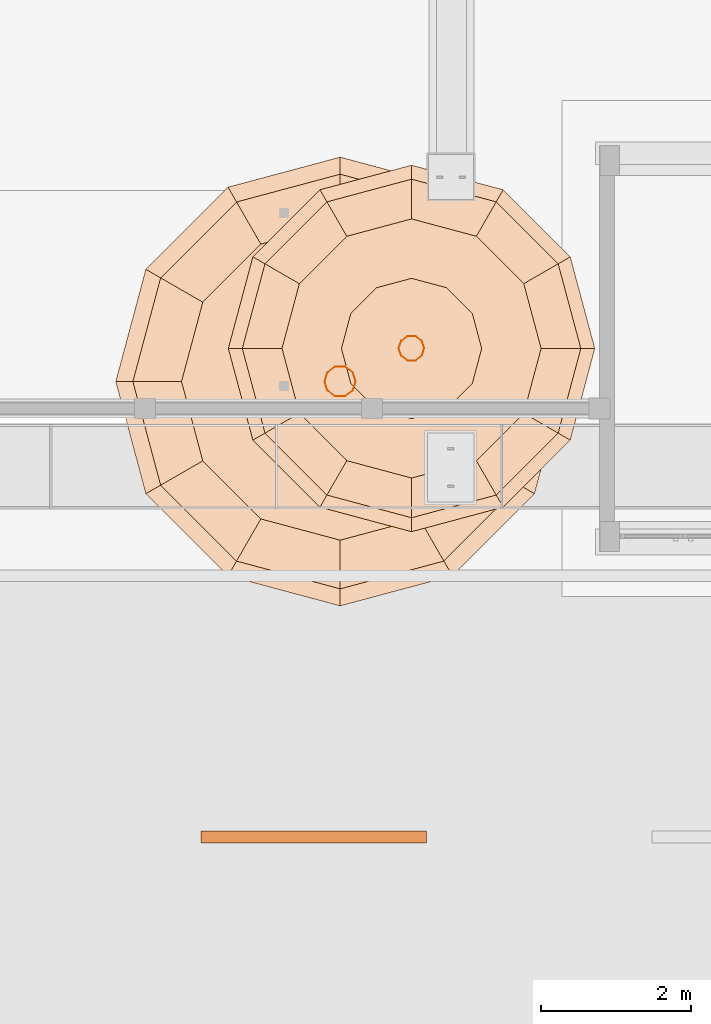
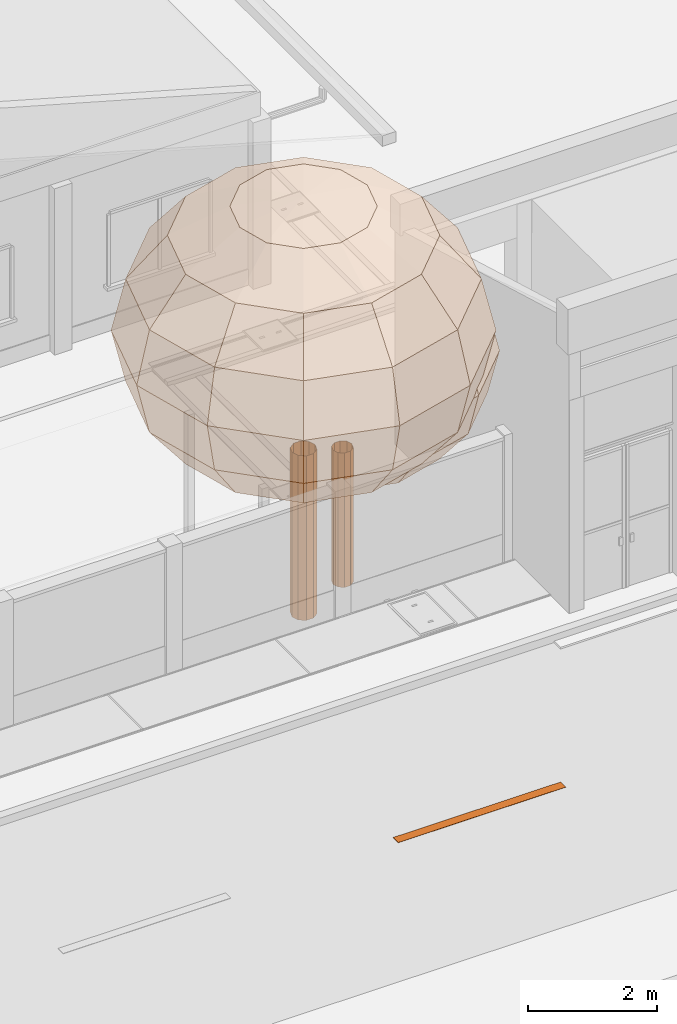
# One storey, part 154 of 177: 4 geographic elements, 1 proxy.
"""IFC4 building model written with IfcOpenShell, lengths in metres."""

from ifc_helpers import new_model, si_unit, origin, origin_with_axes, place, context, subcontext, project, spatial, triangles, element, save


model = new_model("IFC4")

# Units and contexts
model_context = context("Model", 3, precision=1e-05, world=origin_with_axes())
body_context = subcontext(model_context, "Body", "Model", "MODEL_VIEW")
ifc_project = project(units=[si_unit("LENGTHUNIT", "METRE"), si_unit("AREAUNIT", "SQUARE_METRE"), si_unit("VOLUMEUNIT", "CUBIC_METRE"), si_unit("PLANEANGLEUNIT", "RADIAN")], contexts=[model_context])

# Site, building, storey
site_placement = place(None, origin_with_axes())
site = spatial("IfcSite", under=ifc_project, at=site_placement, Name="Predio Los Mangos - Morales, San Martín", CompositionType="ELEMENT")
building_placement = place(site_placement, origin())
building = spatial("IfcBuilding", under=site, at=building_placement, Name="Hogar de Refugio Temporal", CompositionType="ELEMENT")
storey_placement = place(building_placement, origin())
storey = spatial("IfcBuildingStorey", under=building, at=storey_placement, Name="NIVEL 1 (NPT +0.00)", CompositionType="ELEMENT", Elevation=0.0)

# Proxy
proxy_placement = place(storey_placement, origin())
element("IfcBuildingElementProxy", 1, at=proxy_placement, inside=storey, Name="linea_carril", ObjectType="Losa deportiva y vía", PredefinedType="NOTDEFINED", context=body_context, shape_type="Tessellation", body=[
    triangles([(26.0, 12.22, 0.02), (29.0, 12.22, 0.02), (29.0, 12.38, 0.02), (26.0, 12.38, 0.02), (26.0, 12.22, 0.025), (29.0, 12.22, 0.025), (29.0, 12.38, 0.025), (26.0, 12.38, 0.025)], [[1, 4, 3], [1, 3, 2], [5, 6, 7], [5, 7, 8], [1, 2, 6], [1, 6, 5], [2, 3, 7], [2, 7, 6], [3, 4, 8], [3, 8, 7], [4, 1, 5], [4, 5, 8]]),
])

# Geographic elements
geographic_element_1_placement = place(storey_placement, origin())
element("IfcGeographicElement", 2, at=geographic_element_1_placement, inside=storey, Name="arbol_tronco", ObjectType="Árbol", PredefinedType="NOTDEFINED", context=body_context, shape_type="Tessellation", body=[
    triangles([(28.0578, 18.36, 0.0), (28.0181, 18.4821, 0.0), (27.9142, 18.5576, 0.0), (27.7858, 18.5576, 0.0), (27.6819, 18.4821, 0.0), (27.6422, 18.36, 0.0), (27.6819, 18.2379, 0.0), (27.7858, 18.1624, 0.0), (27.9142, 18.1624, 0.0), (28.0181, 18.2379, 0.0), (28.0578, 18.36, 3.1163), (28.0181, 18.4821, 3.1163), (27.9142, 18.5576, 3.1163), (27.7858, 18.5576, 3.1163), (27.6819, 18.4821, 3.1163), (27.6422, 18.36, 3.1163), (27.6819, 18.2379, 3.1163), (27.7858, 18.1624, 3.1163), (27.9142, 18.1624, 3.1163), (28.0181, 18.2379, 3.1163)], [[1, 2, 12], [2, 3, 13], [3, 4, 14], [4, 5, 15], [5, 6, 16], [6, 7, 17], [7, 8, 18], [8, 9, 19], [9, 10, 20], [10, 1, 11], [1, 12, 11], [2, 13, 12], [3, 14, 13], [4, 15, 14], [5, 16, 15], [6, 17, 16], [7, 18, 17], [8, 19, 18], [9, 20, 19], [10, 11, 20]]),
])
geographic_element_2_placement = place(storey_placement, origin())
element("IfcGeographicElement", 3, at=geographic_element_2_placement, inside=storey, Name="arbol_copa", ObjectType="Árbol", PredefinedType="NOTDEFINED", context=body_context, shape_type="Tessellation", body=[
    triangles([(27.85, 18.36, 7.8947), (27.85, 18.36, 7.8947), (27.85, 18.36, 7.8947), (27.85, 18.36, 7.8947), (27.85, 18.36, 7.8947), (27.85, 18.36, 7.8947), (27.85, 18.36, 7.8947), (27.85, 18.36, 7.8947), (27.85, 18.36, 7.8947), (27.85, 18.36, 7.8947), (27.85, 18.36, 7.8947), (27.85, 18.36, 7.8947), (28.9929, 18.36, 7.7015), (28.8398, 18.9314, 7.7015), (28.4214, 19.3498, 7.7015), (27.85, 19.5029, 7.7015), (27.2786, 19.3498, 7.7015), (26.8602, 18.9314, 7.7015), (26.7071, 18.36, 7.7015), (26.8602, 17.7886, 7.7015), (27.2786, 17.3702, 7.7015), (27.85, 17.2171, 7.7015), (28.4214, 17.3702, 7.7015), (28.8398, 17.7886, 7.7015), (29.9618, 18.36, 7.1512), (29.6788, 19.4159, 7.1512), (28.9059, 20.1888, 7.1512), (27.85, 20.4718, 7.1512), (26.7941, 20.1888, 7.1512), (26.0212, 19.4159, 7.1512), (25.7382, 18.36, 7.1512), (26.0212, 17.3041, 7.1512), (26.7941, 16.5312, 7.1512), (27.85, 16.2482, 7.1512), (28.9059, 16.5312, 7.1512), (29.6788, 17.3041, 7.1512), (30.6092, 18.36, 6.3276), (30.2395, 19.7396, 6.3276), (29.2296, 20.7495, 6.3276), (27.85, 21.1192, 6.3276), (26.4704, 20.7495, 6.3276), (25.4605, 19.7396, 6.3276), (25.0908, 18.36, 6.3276), (25.4605, 16.9804, 6.3276), (26.4704, 15.9705, 6.3276), (27.85, 15.6008, 6.3276), (29.2296, 15.9705, 6.3276), (30.2395, 16.9804, 6.3276), (30.8365, 18.36, 5.3562), (30.4364, 19.8532, 5.3562), (29.3432, 20.9464, 5.3562), (27.85, 21.3465, 5.3562), (26.3568, 20.9464, 5.3562), (25.2636, 19.8532, 5.3562), (24.8635, 18.36, 5.3562), (25.2636, 16.8668, 5.3562), (26.3568, 15.7736, 5.3562), (27.85, 15.3735, 5.3562), (29.3432, 15.7736, 5.3562), (30.4364, 16.8668, 5.3562), (30.6092, 18.36, 4.3848), (30.2395, 19.7396, 4.3848), (29.2296, 20.7495, 4.3848), (27.85, 21.1192, 4.3848), (26.4704, 20.7495, 4.3848), (25.4605, 19.7396, 4.3848), (25.0908, 18.36, 4.3848), (25.4605, 16.9804, 4.3848), (26.4704, 15.9705, 4.3848), (27.85, 15.6008, 4.3848), (29.2296, 15.9705, 4.3848), (30.2395, 16.9804, 4.3848), (29.9618, 18.36, 3.5612), (29.6788, 19.4159, 3.5612), (28.9059, 20.1888, 3.5612), (27.85, 20.4718, 3.5612), (26.7941, 20.1888, 3.5612), (26.0212, 19.4159, 3.5612), (25.7382, 18.36, 3.5612), (26.0212, 17.3041, 3.5612), (26.7941, 16.5312, 3.5612), (27.85, 16.2482, 3.5612), (28.9059, 16.5312, 3.5612), (29.6788, 17.3041, 3.5612), (28.9929, 18.36, 3.0109), (28.8398, 18.9314, 3.0109), (28.4214, 19.3498, 3.0109), (27.85, 19.5029, 3.0109), (27.2786, 19.3498, 3.0109), (26.8602, 18.9314, 3.0109), (26.7071, 18.36, 3.0109), (26.8602, 17.7886, 3.0109), (27.2786, 17.3702, 3.0109), (27.85, 17.2171, 3.0109), (28.4214, 17.3702, 3.0109), (28.8398, 17.7886, 3.0109), (27.85, 18.36, 2.8177), (27.85, 18.36, 2.8177), (27.85, 18.36, 2.8177), (27.85, 18.36, 2.8177), (27.85, 18.36, 2.8177), (27.85, 18.36, 2.8177), (27.85, 18.36, 2.8177), (27.85, 18.36, 2.8177), (27.85, 18.36, 2.8177), (27.85, 18.36, 2.8177), (27.85, 18.36, 2.8177), (27.85, 18.36, 2.8177)], [[1, 2, 14], [1, 14, 13], [2, 3, 15], [2, 15, 14], [3, 4, 16], [3, 16, 15], [4, 5, 17], [4, 17, 16], [5, 6, 18], [5, 18, 17], [6, 7, 19], [6, 19, 18], [7, 8, 20], [7, 20, 19], [8, 9, 21], [8, 21, 20], [9, 10, 22], [9, 22, 21], [10, 11, 23], [10, 23, 22], [11, 12, 24], [11, 24, 23], [12, 1, 13], [12, 13, 24], [13, 14, 26], [13, 26, 25], [14, 15, 27], [14, 27, 26], [15, 16, 28], [15, 28, 27], [16, 17, 29], [16, 29, 28], [17, 18, 30], [17, 30, 29], [18, 19, 31], [18, 31, 30], [19, 20, 32], [19, 32, 31], [20, 21, 33], [20, 33, 32], [21, 22, 34], [21, 34, 33], [22, 23, 35], [22, 35, 34], [23, 24, 36], [23, 36, 35], [24, 13, 25], [24, 25, 36], [25, 26, 38], [25, 38, 37], [26, 27, 39], [26, 39, 38], [27, 28, 40], [27, 40, 39], [28, 29, 41], [28, 41, 40], [29, 30, 42], [29, 42, 41], [30, 31, 43], [30, 43, 42], [31, 32, 44], [31, 44, 43], [32, 33, 45], [32, 45, 44], [33, 34, 46], [33, 46, 45], [34, 35, 47], [34, 47, 46], [35, 36, 48], [35, 48, 47], [36, 25, 37], [36, 37, 48], [37, 38, 50], [37, 50, 49], [38, 39, 51], [38, 51, 50], [39, 40, 52], [39, 52, 51], [40, 41, 53], [40, 53, 52], [41, 42, 54], [41, 54, 53], [42, 43, 55], [42, 55, 54], [43, 44, 56], [43, 56, 55], [44, 45, 57], [44, 57, 56], [45, 46, 58], [45, 58, 57], [46, 47, 59], [46, 59, 58], [47, 48, 60], [47, 60, 59], [48, 37, 49], [48, 49, 60], [49, 50, 62], [49, 62, 61], [50, 51, 63], [50, 63, 62], [51, 52, 64], [51, 64, 63], [52, 53, 65], [52, 65, 64], [53, 54, 66], [53, 66, 65], [54, 55, 67], [54, 67, 66], [55, 56, 68], [55, 68, 67], [56, 57, 69], [56, 69, 68], [57, 58, 70], [57, 70, 69], [58, 59, 71], [58, 71, 70], [59, 60, 72], [59, 72, 71], [60, 49, 61], [60, 61, 72], [61, 62, 74], [61, 74, 73], [62, 63, 75], [62, 75, 74], [63, 64, 76], [63, 76, 75], [64, 65, 77], [64, 77, 76], [65, 66, 78], [65, 78, 77], [66, 67, 79], [66, 79, 78], [67, 68, 80], [67, 80, 79], [68, 69, 81], [68, 81, 80], [69, 70, 82], [69, 82, 81], [70, 71, 83], [70, 83, 82], [71, 72, 84], [71, 84, 83], [72, 61, 73], [72, 73, 84], [73, 74, 86], [73, 86, 85], [74, 75, 87], [74, 87, 86], [75, 76, 88], [75, 88, 87], [76, 77, 89], [76, 89, 88], [77, 78, 90], [77, 90, 89], [78, 79, 91], [78, 91, 90], [79, 80, 92], [79, 92, 91], [80, 81, 93], [80, 93, 92], [81, 82, 94], [81, 94, 93], [82, 83, 95], [82, 95, 94], [83, 84, 96], [83, 96, 95], [84, 73, 85], [84, 85, 96], [85, 86, 98], [85, 98, 97], [86, 87, 99], [86, 99, 98], [87, 88, 100], [87, 100, 99], [88, 89, 101], [88, 101, 100], [89, 90, 102], [89, 102, 101], [90, 91, 103], [90, 103, 102], [91, 92, 104], [91, 104, 103], [92, 93, 105], [92, 105, 104], [93, 94, 106], [93, 106, 105], [94, 95, 107], [94, 107, 106], [95, 96, 108], [95, 108, 107], [96, 85, 97], [96, 97, 108]]),
])
geographic_element_3_placement = place(storey_placement, origin())
element("IfcGeographicElement", 4, at=geographic_element_3_placement, inside=storey, Name="arbol_tronco", ObjectType="Árbol", PredefinedType="NOTDEFINED", context=body_context, shape_type="Tessellation", body=[
    triangles([(28.9696, 18.8, 0.0), (28.9372, 18.8997, 0.0), (28.8524, 18.9613, 0.0), (28.7476, 18.9613, 0.0), (28.6628, 18.8997, 0.0), (28.6304, 18.8, 0.0), (28.6628, 18.7003, 0.0), (28.7476, 18.6387, 0.0), (28.8524, 18.6387, 0.0), (28.9372, 18.7003, 0.0), (28.9696, 18.8, 2.5446), (28.9372, 18.8997, 2.5446), (28.8524, 18.9613, 2.5446), (28.7476, 18.9613, 2.5446), (28.6628, 18.8997, 2.5446), (28.6304, 18.8, 2.5446), (28.6628, 18.7003, 2.5446), (28.7476, 18.6387, 2.5446), (28.8524, 18.6387, 2.5446), (28.9372, 18.7003, 2.5446)], [[1, 2, 12], [2, 3, 13], [3, 4, 14], [4, 5, 15], [5, 6, 16], [6, 7, 17], [7, 8, 18], [8, 9, 19], [9, 10, 20], [10, 1, 11], [1, 12, 11], [2, 13, 12], [3, 14, 13], [4, 15, 14], [5, 16, 15], [6, 17, 16], [7, 18, 17], [8, 19, 18], [9, 20, 19], [10, 11, 20]]),
])
geographic_element_4_placement = place(storey_placement, origin())
element("IfcGeographicElement", 5, at=geographic_element_4_placement, inside=storey, Name="arbol_copa", ObjectType="Árbol", PredefinedType="NOTDEFINED", context=body_context, shape_type="Tessellation", body=[
    triangles([(28.8, 18.8, 6.4463), (28.8, 18.8, 6.4463), (28.8, 18.8, 6.4463), (28.8, 18.8, 6.4463), (28.8, 18.8, 6.4463), (28.8, 18.8, 6.4463), (28.8, 18.8, 6.4463), (28.8, 18.8, 6.4463), (28.8, 18.8, 6.4463), (28.8, 18.8, 6.4463), (28.8, 18.8, 6.4463), (28.8, 18.8, 6.4463), (29.7332, 18.8, 6.2885), (29.6082, 19.2666, 6.2885), (29.2666, 19.6082, 6.2885), (28.8, 19.7332, 6.2885), (28.3334, 19.6082, 6.2885), (27.9918, 19.2666, 6.2885), (27.8668, 18.8, 6.2885), (27.9918, 18.3334, 6.2885), (28.3334, 17.9918, 6.2885), (28.8, 17.8668, 6.2885), (29.2666, 17.9918, 6.2885), (29.6082, 18.3334, 6.2885), (30.5243, 18.8, 5.8392), (30.2933, 19.6622, 5.8392), (29.6622, 20.2933, 5.8392), (28.8, 20.5243, 5.8392), (27.9378, 20.2933, 5.8392), (27.3067, 19.6622, 5.8392), (27.0757, 18.8, 5.8392), (27.3067, 17.9378, 5.8392), (27.9378, 17.3067, 5.8392), (28.8, 17.0757, 5.8392), (29.6622, 17.3067, 5.8392), (30.2933, 17.9378, 5.8392), (31.0529, 18.8, 5.1667), (30.7511, 19.9265, 5.1667), (29.9265, 20.7511, 5.1667), (28.8, 21.0529, 5.1667), (27.6735, 20.7511, 5.1667), (26.8489, 19.9265, 5.1667), (26.5471, 18.8, 5.1667), (26.8489, 17.6735, 5.1667), (27.6735, 16.8489, 5.1667), (28.8, 16.5471, 5.1667), (29.9265, 16.8489, 5.1667), (30.7511, 17.6735, 5.1667), (31.2386, 18.8, 4.3735), (30.9119, 20.0193, 4.3735), (30.0193, 20.9119, 4.3735), (28.8, 21.2386, 4.3735), (27.5807, 20.9119, 4.3735), (26.6881, 20.0193, 4.3735), (26.3614, 18.8, 4.3735), (26.6881, 17.5807, 4.3735), (27.5807, 16.6881, 4.3735), (28.8, 16.3614, 4.3735), (30.0193, 16.6881, 4.3735), (30.9119, 17.5807, 4.3735), (31.0529, 18.8, 3.5803), (30.7511, 19.9265, 3.5803), (29.9265, 20.7511, 3.5803), (28.8, 21.0529, 3.5803), (27.6735, 20.7511, 3.5803), (26.8489, 19.9265, 3.5803), (26.5471, 18.8, 3.5803), (26.8489, 17.6735, 3.5803), (27.6735, 16.8489, 3.5803), (28.8, 16.5471, 3.5803), (29.9265, 16.8489, 3.5803), (30.7511, 17.6735, 3.5803), (30.5243, 18.8, 2.9078), (30.2933, 19.6622, 2.9078), (29.6622, 20.2933, 2.9078), (28.8, 20.5243, 2.9078), (27.9378, 20.2933, 2.9078), (27.3067, 19.6622, 2.9078), (27.0757, 18.8, 2.9078), (27.3067, 17.9378, 2.9078), (27.9378, 17.3067, 2.9078), (28.8, 17.0757, 2.9078), (29.6622, 17.3067, 2.9078), (30.2933, 17.9378, 2.9078), (29.7332, 18.8, 2.4585), (29.6082, 19.2666, 2.4585), (29.2666, 19.6082, 2.4585), (28.8, 19.7332, 2.4585), (28.3334, 19.6082, 2.4585), (27.9918, 19.2666, 2.4585), (27.8668, 18.8, 2.4585), (27.9918, 18.3334, 2.4585), (28.3334, 17.9918, 2.4585), (28.8, 17.8668, 2.4585), (29.2666, 17.9918, 2.4585), (29.6082, 18.3334, 2.4585), (28.8, 18.8, 2.3007), (28.8, 18.8, 2.3007), (28.8, 18.8, 2.3007), (28.8, 18.8, 2.3007), (28.8, 18.8, 2.3007), (28.8, 18.8, 2.3007), (28.8, 18.8, 2.3007), (28.8, 18.8, 2.3007), (28.8, 18.8, 2.3007), (28.8, 18.8, 2.3007), (28.8, 18.8, 2.3007), (28.8, 18.8, 2.3007)], [[1, 2, 14], [1, 14, 13], [2, 3, 15], [2, 15, 14], [3, 4, 16], [3, 16, 15], [4, 5, 17], [4, 17, 16], [5, 6, 18], [5, 18, 17], [6, 7, 19], [6, 19, 18], [7, 8, 20], [7, 20, 19], [8, 9, 21], [8, 21, 20], [9, 10, 22], [9, 22, 21], [10, 11, 23], [10, 23, 22], [11, 12, 24], [11, 24, 23], [12, 1, 13], [12, 13, 24], [13, 14, 26], [13, 26, 25], [14, 15, 27], [14, 27, 26], [15, 16, 28], [15, 28, 27], [16, 17, 29], [16, 29, 28], [17, 18, 30], [17, 30, 29], [18, 19, 31], [18, 31, 30], [19, 20, 32], [19, 32, 31], [20, 21, 33], [20, 33, 32], [21, 22, 34], [21, 34, 33], [22, 23, 35], [22, 35, 34], [23, 24, 36], [23, 36, 35], [24, 13, 25], [24, 25, 36], [25, 26, 38], [25, 38, 37], [26, 27, 39], [26, 39, 38], [27, 28, 40], [27, 40, 39], [28, 29, 41], [28, 41, 40], [29, 30, 42], [29, 42, 41], [30, 31, 43], [30, 43, 42], [31, 32, 44], [31, 44, 43], [32, 33, 45], [32, 45, 44], [33, 34, 46], [33, 46, 45], [34, 35, 47], [34, 47, 46], [35, 36, 48], [35, 48, 47], [36, 25, 37], [36, 37, 48], [37, 38, 50], [37, 50, 49], [38, 39, 51], [38, 51, 50], [39, 40, 52], [39, 52, 51], [40, 41, 53], [40, 53, 52], [41, 42, 54], [41, 54, 53], [42, 43, 55], [42, 55, 54], [43, 44, 56], [43, 56, 55], [44, 45, 57], [44, 57, 56], [45, 46, 58], [45, 58, 57], [46, 47, 59], [46, 59, 58], [47, 48, 60], [47, 60, 59], [48, 37, 49], [48, 49, 60], [49, 50, 62], [49, 62, 61], [50, 51, 63], [50, 63, 62], [51, 52, 64], [51, 64, 63], [52, 53, 65], [52, 65, 64], [53, 54, 66], [53, 66, 65], [54, 55, 67], [54, 67, 66], [55, 56, 68], [55, 68, 67], [56, 57, 69], [56, 69, 68], [57, 58, 70], [57, 70, 69], [58, 59, 71], [58, 71, 70], [59, 60, 72], [59, 72, 71], [60, 49, 61], [60, 61, 72], [61, 62, 74], [61, 74, 73], [62, 63, 75], [62, 75, 74], [63, 64, 76], [63, 76, 75], [64, 65, 77], [64, 77, 76], [65, 66, 78], [65, 78, 77], [66, 67, 79], [66, 79, 78], [67, 68, 80], [67, 80, 79], [68, 69, 81], [68, 81, 80], [69, 70, 82], [69, 82, 81], [70, 71, 83], [70, 83, 82], [71, 72, 84], [71, 84, 83], [72, 61, 73], [72, 73, 84], [73, 74, 86], [73, 86, 85], [74, 75, 87], [74, 87, 86], [75, 76, 88], [75, 88, 87], [76, 77, 89], [76, 89, 88], [77, 78, 90], [77, 90, 89], [78, 79, 91], [78, 91, 90], [79, 80, 92], [79, 92, 91], [80, 81, 93], [80, 93, 92], [81, 82, 94], [81, 94, 93], [82, 83, 95], [82, 95, 94], [83, 84, 96], [83, 96, 95], [84, 73, 85], [84, 85, 96], [85, 86, 98], [85, 98, 97], [86, 87, 99], [86, 99, 98], [87, 88, 100], [87, 100, 99], [88, 89, 101], [88, 101, 100], [89, 90, 102], [89, 102, 101], [90, 91, 103], [90, 103, 102], [91, 92, 104], [91, 104, 103], [92, 93, 105], [92, 105, 104], [93, 94, 106], [93, 106, 105], [94, 95, 107], [94, 107, 106], [95, 96, 108], [95, 108, 107], [96, 85, 97], [96, 97, 108]]),
])

save(model, "model.ifc")
